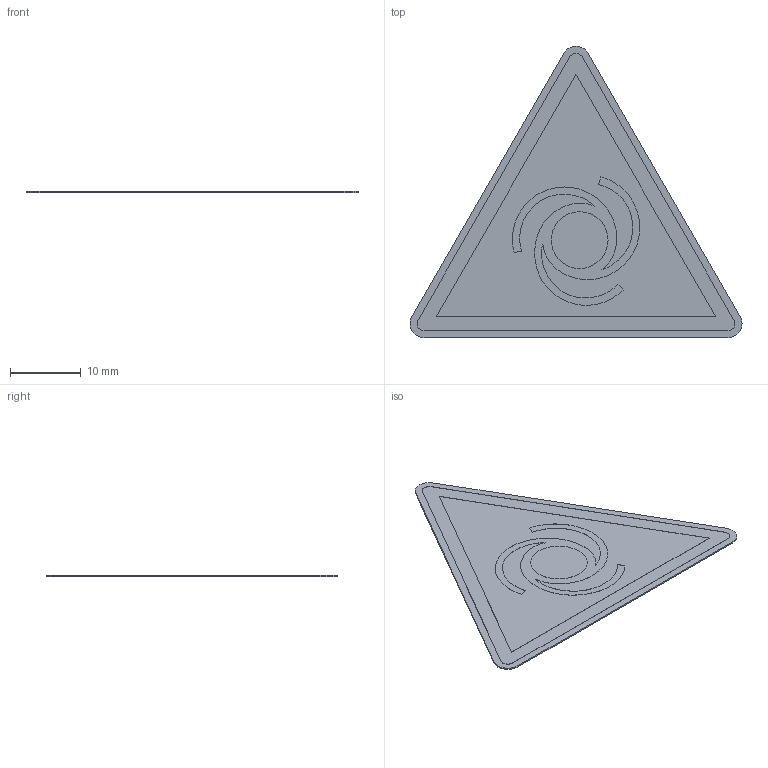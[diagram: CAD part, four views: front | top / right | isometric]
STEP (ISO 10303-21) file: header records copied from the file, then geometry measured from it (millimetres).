
FILE_DESCRIPTION (( 'STEP AP214' ), '1' );
FILE_NAME ('W018_Warnung vor automatischem Anlauf.STEP', '2022-02-22T08:17:53', ( '' ), ( '' ), 'SwSTEP 2.0', 'SolidWorks 2021', '' );
FILE_SCHEMA (( 'AUTOMOTIVE_DESIGN' ));
Length unit declared in the file: millimetre
Products named in the file (1): W018_Warnung vor automatischem Anlauf
Bounding box: 47.07 x 41.3 x 0.22 mm (x, y, z)
Volume: 221 mm3; surface area: 2183.8 mm2
Topology: 1 solids, 1 shells, 37 faces, 93 edges, 62 vertices
Faces by surface type: plane 18, cylinder 13, bspline 6
Entity records: 1569 total; most frequent: CARTESIAN_POINT 371, ORIENTED_EDGE 186, DIRECTION 171, EDGE_CURVE 93, VERTEX_POINT 62, AXIS2_PLACEMENT_3D 58, LINE 55, VECTOR 55
